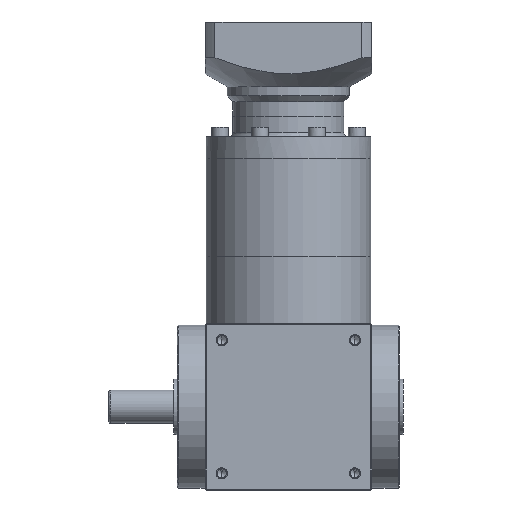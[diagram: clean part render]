
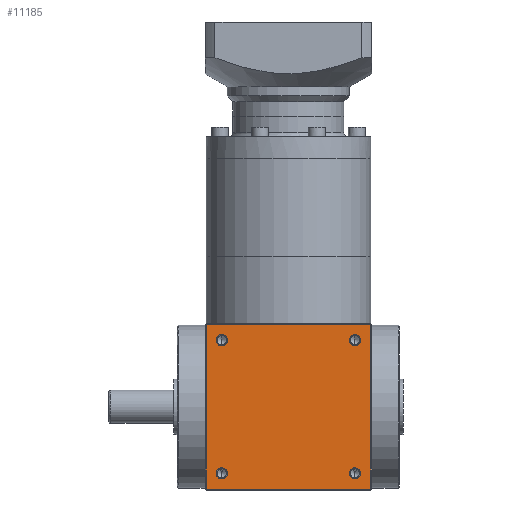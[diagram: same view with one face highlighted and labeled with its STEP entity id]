
A CAD part, front view. The second image highlights one B-rep face of the part: STEP entity #11185.
In plain terms, the highlighted planar face has unit normal (0, -1, 0).
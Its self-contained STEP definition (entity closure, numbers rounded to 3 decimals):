
#1369 = DIRECTION ( 'NONE',  ( 0., 0., -1. ) ) ;
#1553 = CARTESIAN_POINT ( 'NONE',  ( 44.5, -45., 90. ) ) ;
#3027 = ORIENTED_EDGE ( 'NONE', *, *, #14024, .F. ) ;
#3236 = DIRECTION ( 'NONE',  ( 0., 1., 0. ) ) ;
#3733 = DIRECTION ( 'NONE',  ( 0., 0., -1. ) ) ;
#3943 = DIRECTION ( 'NONE',  ( 1., 0., 0. ) ) ;
#4445 = AXIS2_PLACEMENT_3D ( 'NONE', #12658, #40615, #16672 ) ;
#4532 = CARTESIAN_POINT ( 'NONE',  ( 36., -45., 84.025 ) ) ;
#4924 = CARTESIAN_POINT ( 'NONE',  ( 36., -45., 9. ) ) ;
#6354 = CARTESIAN_POINT ( 'NONE',  ( -36., -45., 77.975 ) ) ;
#8332 = EDGE_CURVE ( 'NONE', #23245, #29065, #22636, .T. ) ;
#8458 = ORIENTED_EDGE ( 'NONE', *, *, #37242, .F. ) ;
#8648 = DIRECTION ( 'NONE',  ( 0., -1., 0. ) ) ;
#8948 = DIRECTION ( 'NONE',  ( 0., 0., -1. ) ) ;
#9339 = LINE ( 'NONE', #31916, #31867 ) ;
#10284 = VERTEX_POINT ( 'NONE', #4532 ) ;
#10447 = AXIS2_PLACEMENT_3D ( 'NONE', #23110, #3236, #31189 ) ;
#11164 = CIRCLE ( 'NONE', #41532, 3.025 ) ;
#11185 = ADVANCED_FACE ( 'NONE', ( #26382, #37001, #47593, #38258, #15718 ), #43020, .F. ) ;
#11546 = CARTESIAN_POINT ( 'NONE',  ( 36., -45., 5.975 ) ) ;
#11673 = CARTESIAN_POINT ( 'NONE',  ( -36., -45., 5.975 ) ) ;
#12174 = CARTESIAN_POINT ( 'NONE',  ( 36., -45., 12.025 ) ) ;
#12658 = CARTESIAN_POINT ( 'NONE',  ( 36., -45., 81. ) ) ;
#13499 = VECTOR ( 'NONE', #33482, 1000. ) ;
#14024 = EDGE_CURVE ( 'NONE', #14223, #30169, #9339, .T. ) ;
#14223 = VERTEX_POINT ( 'NONE', #41312 ) ;
#15209 = LINE ( 'NONE', #22667, #36516 ) ;
#15718 = FACE_OUTER_BOUND ( 'NONE', #51559, .T. ) ;
#15812 = EDGE_LOOP ( 'NONE', ( #17179, #50773 ) ) ;
#16672 = DIRECTION ( 'NONE',  ( 0., 0., -1. ) ) ;
#17179 = ORIENTED_EDGE ( 'NONE', *, *, #30473, .F. ) ;
#17887 = DIRECTION ( 'NONE',  ( 0., -1., 0. ) ) ;
#18391 = ORIENTED_EDGE ( 'NONE', *, *, #39521, .F. ) ;
#19387 = CARTESIAN_POINT ( 'NONE',  ( -45., -45., 0.5 ) ) ;
#19700 = CARTESIAN_POINT ( 'NONE',  ( 44.5, -45., 0.5 ) ) ;
#19774 = VERTEX_POINT ( 'NONE', #11673 ) ;
#20217 = CARTESIAN_POINT ( 'NONE',  ( -36., -45., 81. ) ) ;
#20379 = EDGE_CURVE ( 'NONE', #36512, #19774, #11164, .T. ) ;
#20468 = CIRCLE ( 'NONE', #47549, 3.025 ) ;
#22636 = CIRCLE ( 'NONE', #43799, 3.025 ) ;
#22637 = VERTEX_POINT ( 'NONE', #35560 ) ;
#22667 = CARTESIAN_POINT ( 'NONE',  ( -44.5, -45., 90. ) ) ;
#23110 = CARTESIAN_POINT ( 'NONE',  ( -45., -45., 90. ) ) ;
#23245 = VERTEX_POINT ( 'NONE', #11546 ) ;
#23421 = DIRECTION ( 'NONE',  ( -1., 0., 0. ) ) ;
#23734 = DIRECTION ( 'NONE',  ( 0., -1., 0. ) ) ;
#23850 = ORIENTED_EDGE ( 'NONE', *, *, #48810, .F. ) ;
#24130 = LINE ( 'NONE', #1553, #13499 ) ;
#24246 = DIRECTION ( 'NONE',  ( 0., 0., -1. ) ) ;
#24427 = AXIS2_PLACEMENT_3D ( 'NONE', #4924, #32883, #8948 ) ;
#25216 = EDGE_LOOP ( 'NONE', ( #28671, #39212 ) ) ;
#25262 = DIRECTION ( 'NONE',  ( 0., -1., 0. ) ) ;
#26382 = FACE_BOUND ( 'NONE', #15812, .T. ) ;
#27096 = CIRCLE ( 'NONE', #45739, 3.025 ) ;
#27213 = DIRECTION ( 'NONE',  ( 0., 0., 1. ) ) ;
#27668 = DIRECTION ( 'NONE',  ( 0., -1., 0. ) ) ;
#28067 = VECTOR ( 'NONE', #23421, 1000. ) ;
#28671 = ORIENTED_EDGE ( 'NONE', *, *, #30969, .F. ) ;
#29062 = EDGE_CURVE ( 'NONE', #50741, #30739, #40050, .T. ) ;
#29065 = VERTEX_POINT ( 'NONE', #12174 ) ;
#30169 = VERTEX_POINT ( 'NONE', #49883 ) ;
#30221 = EDGE_LOOP ( 'NONE', ( #18391, #33346 ) ) ;
#30473 = EDGE_CURVE ( 'NONE', #35748, #10284, #45647, .T. ) ;
#30739 = VERTEX_POINT ( 'NONE', #6354 ) ;
#30969 = EDGE_CURVE ( 'NONE', #19774, #36512, #36221, .T. ) ;
#31189 = DIRECTION ( 'NONE',  ( 0., 0., 1. ) ) ;
#31498 = ORIENTED_EDGE ( 'NONE', *, *, #50552, .F. ) ;
#31867 = VECTOR ( 'NONE', #3943, 1000. ) ;
#31916 = CARTESIAN_POINT ( 'NONE',  ( -45., -45., 89.5 ) ) ;
#32570 = CARTESIAN_POINT ( 'NONE',  ( -36., -45., 81. ) ) ;
#32883 = DIRECTION ( 'NONE',  ( 0., -1., 0. ) ) ;
#33346 = ORIENTED_EDGE ( 'NONE', *, *, #29062, .F. ) ;
#33482 = DIRECTION ( 'NONE',  ( 0., 0., -1. ) ) ;
#34251 = EDGE_CURVE ( 'NONE', #22637, #14223, #15209, .T. ) ;
#34429 = ORIENTED_EDGE ( 'NONE', *, *, #8332, .F. ) ;
#35560 = CARTESIAN_POINT ( 'NONE',  ( -44.5, -45., 0.5 ) ) ;
#35583 = AXIS2_PLACEMENT_3D ( 'NONE', #51537, #27668, #3733 ) ;
#35748 = VERTEX_POINT ( 'NONE', #50407 ) ;
#36221 = CIRCLE ( 'NONE', #35583, 3.025 ) ;
#36512 = VERTEX_POINT ( 'NONE', #41452 ) ;
#36516 = VECTOR ( 'NONE', #27213, 1000. ) ;
#36596 = DIRECTION ( 'NONE',  ( 0., 0., -1. ) ) ;
#37001 = FACE_BOUND ( 'NONE', #30221, .T. ) ;
#37200 = AXIS2_PLACEMENT_3D ( 'NONE', #20217, #48154, #24246 ) ;
#37242 = EDGE_CURVE ( 'NONE', #29065, #23245, #48167, .T. ) ;
#37547 = EDGE_LOOP ( 'NONE', ( #34429, #8458 ) ) ;
#37664 = VERTEX_POINT ( 'NONE', #19700 ) ;
#38258 = FACE_BOUND ( 'NONE', #25216, .T. ) ;
#39212 = ORIENTED_EDGE ( 'NONE', *, *, #20379, .F. ) ;
#39521 = EDGE_CURVE ( 'NONE', #30739, #50741, #20468, .T. ) ;
#40050 = CIRCLE ( 'NONE', #37200, 3.025 ) ;
#40615 = DIRECTION ( 'NONE',  ( 0., -1., 0. ) ) ;
#41312 = CARTESIAN_POINT ( 'NONE',  ( -44.5, -45., 89.5 ) ) ;
#41452 = CARTESIAN_POINT ( 'NONE',  ( -36., -45., 12.025 ) ) ;
#41532 = AXIS2_PLACEMENT_3D ( 'NONE', #47650, #23734, #51647 ) ;
#41873 = CARTESIAN_POINT ( 'NONE',  ( 36., -45., 9. ) ) ;
#43020 = PLANE ( 'NONE',  #10447 ) ;
#43799 = AXIS2_PLACEMENT_3D ( 'NONE', #41873, #17887, #45875 ) ;
#44074 = ORIENTED_EDGE ( 'NONE', *, *, #34251, .F. ) ;
#44679 = EDGE_CURVE ( 'NONE', #10284, #35748, #27096, .T. ) ;
#45647 = CIRCLE ( 'NONE', #4445, 3.025 ) ;
#45739 = AXIS2_PLACEMENT_3D ( 'NONE', #49147, #25262, #1369 ) ;
#45875 = DIRECTION ( 'NONE',  ( 0., 0., -1. ) ) ;
#46865 = CARTESIAN_POINT ( 'NONE',  ( -36., -45., 84.025 ) ) ;
#47549 = AXIS2_PLACEMENT_3D ( 'NONE', #32570, #8648, #36596 ) ;
#47593 = FACE_BOUND ( 'NONE', #37547, .T. ) ;
#47650 = CARTESIAN_POINT ( 'NONE',  ( -36., -45., 9. ) ) ;
#48154 = DIRECTION ( 'NONE',  ( 0., -1., 0. ) ) ;
#48167 = CIRCLE ( 'NONE', #24427, 3.025 ) ;
#48810 = EDGE_CURVE ( 'NONE', #37664, #22637, #49278, .T. ) ;
#49147 = CARTESIAN_POINT ( 'NONE',  ( 36., -45., 81. ) ) ;
#49278 = LINE ( 'NONE', #19387, #28067 ) ;
#49883 = CARTESIAN_POINT ( 'NONE',  ( 44.5, -45., 89.5 ) ) ;
#50407 = CARTESIAN_POINT ( 'NONE',  ( 36., -45., 77.975 ) ) ;
#50552 = EDGE_CURVE ( 'NONE', #30169, #37664, #24130, .T. ) ;
#50741 = VERTEX_POINT ( 'NONE', #46865 ) ;
#50773 = ORIENTED_EDGE ( 'NONE', *, *, #44679, .F. ) ;
#51537 = CARTESIAN_POINT ( 'NONE',  ( -36., -45., 9. ) ) ;
#51559 = EDGE_LOOP ( 'NONE', ( #23850, #31498, #3027, #44074 ) ) ;
#51647 = DIRECTION ( 'NONE',  ( 0., 0., -1. ) ) ;
